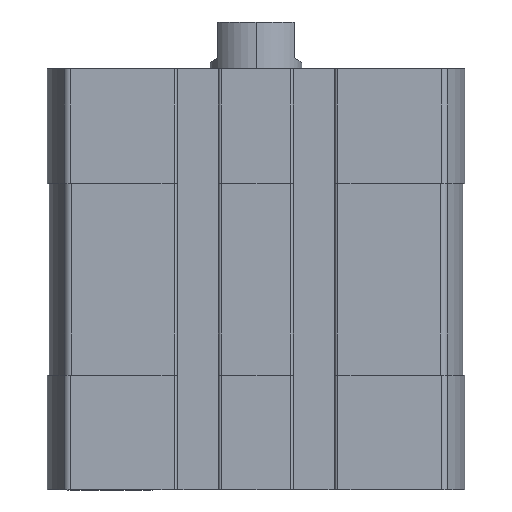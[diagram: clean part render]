
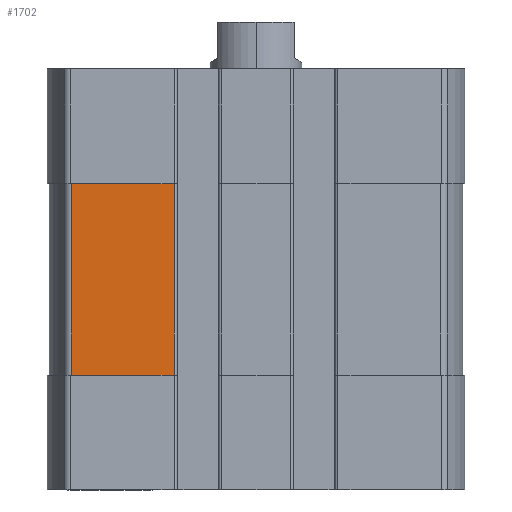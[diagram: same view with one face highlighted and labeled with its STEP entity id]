
A CAD part, left-side view. The second image highlights one B-rep face of the part: STEP entity #1702.
In plain terms, the highlighted planar face has unit normal (-1, 0, 0).
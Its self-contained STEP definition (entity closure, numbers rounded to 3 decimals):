
#76 = LINE ( 'NONE', #12905, #5671 ) ;
#105 = ORIENTED_EDGE ( 'NONE', *, *, #6887, .T. ) ;
#510 = VECTOR ( 'NONE', #15102, 1000. ) ;
#784 = VECTOR ( 'NONE', #12498, 1000. ) ;
#1691 = CARTESIAN_POINT ( 'NONE',  ( -27., 24.093, -40. ) ) ;
#1702 = ADVANCED_FACE ( 'NONE', ( #1819 ), #3126, .T. ) ;
#1748 = EDGE_CURVE ( 'NONE', #9383, #8924, #7803, .T. ) ;
#1819 = FACE_OUTER_BOUND ( 'NONE', #14231, .T. ) ;
#2052 = CARTESIAN_POINT ( 'NONE',  ( -27., 0., -15. ) ) ;
#2320 = CARTESIAN_POINT ( 'NONE',  ( -27., 10.7, -40. ) ) ;
#3126 = PLANE ( 'NONE',  #7744 ) ;
#3634 = ORIENTED_EDGE ( 'NONE', *, *, #14464, .T. ) ;
#3978 = LINE ( 'NONE', #1691, #784 ) ;
#4496 = DIRECTION ( 'NONE',  ( 0., -1., 0. ) ) ;
#5671 = VECTOR ( 'NONE', #4496, 1000. ) ;
#5853 = ORIENTED_EDGE ( 'NONE', *, *, #1748, .T. ) ;
#6050 = VERTEX_POINT ( 'NONE', #2320 ) ;
#6234 = CARTESIAN_POINT ( 'NONE',  ( -27., 24.093, -40. ) ) ;
#6741 = DIRECTION ( 'NONE',  ( -1., 0., 0. ) ) ;
#6859 = LINE ( 'NONE', #9045, #510 ) ;
#6887 = EDGE_CURVE ( 'NONE', #8698, #6050, #76, .T. ) ;
#7262 = EDGE_CURVE ( 'NONE', #8924, #8698, #3978, .T. ) ;
#7744 = AXIS2_PLACEMENT_3D ( 'NONE', #13939, #6741, #15160 ) ;
#7803 = LINE ( 'NONE', #2052, #13824 ) ;
#7952 = CARTESIAN_POINT ( 'NONE',  ( -27., 24.093, -15. ) ) ;
#8698 = VERTEX_POINT ( 'NONE', #6234 ) ;
#8924 = VERTEX_POINT ( 'NONE', #7952 ) ;
#9045 = CARTESIAN_POINT ( 'NONE',  ( -27., 10.7, -40. ) ) ;
#9383 = VERTEX_POINT ( 'NONE', #14615 ) ;
#10413 = DIRECTION ( 'NONE',  ( 0., 1., 0. ) ) ;
#12498 = DIRECTION ( 'NONE',  ( 0., 0., -1. ) ) ;
#12905 = CARTESIAN_POINT ( 'NONE',  ( -27., 24.093, -40. ) ) ;
#13824 = VECTOR ( 'NONE', #10413, 1000. ) ;
#13939 = CARTESIAN_POINT ( 'NONE',  ( -27., 24.093, -40. ) ) ;
#14075 = ORIENTED_EDGE ( 'NONE', *, *, #7262, .T. ) ;
#14231 = EDGE_LOOP ( 'NONE', ( #105, #3634, #5853, #14075 ) ) ;
#14464 = EDGE_CURVE ( 'NONE', #6050, #9383, #6859, .T. ) ;
#14615 = CARTESIAN_POINT ( 'NONE',  ( -27., 10.7, -15. ) ) ;
#15102 = DIRECTION ( 'NONE',  ( 0., 0., 1. ) ) ;
#15160 = DIRECTION ( 'NONE',  ( 0., 0., 1. ) ) ;
